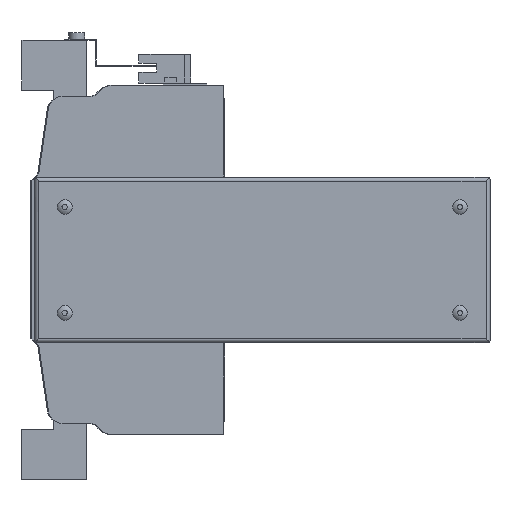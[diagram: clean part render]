
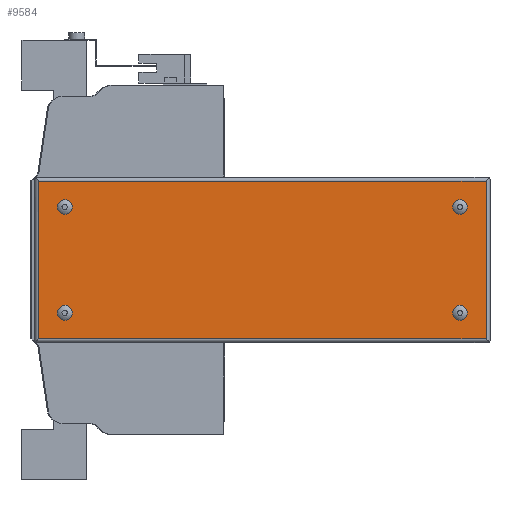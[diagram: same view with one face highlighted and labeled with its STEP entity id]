
A CAD part, left-side view. The second image highlights one B-rep face of the part: STEP entity #9584.
In plain terms, the highlighted planar face has unit normal (-1, 0, 0).
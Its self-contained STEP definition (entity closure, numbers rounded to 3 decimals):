
#277=PLANE('',#10317);
#975=LINE('',#14740,#2046);
#976=LINE('',#14743,#2047);
#977=LINE('',#14745,#2048);
#978=LINE('',#14747,#2049);
#2046=VECTOR('',#11960,1000.);
#2047=VECTOR('',#11961,1000.);
#2048=VECTOR('',#11962,1000.);
#2049=VECTOR('',#11963,1000.);
#3788=ORIENTED_EDGE('',*,*,#5927,.F.);
#3789=ORIENTED_EDGE('',*,*,#5928,.F.);
#3790=ORIENTED_EDGE('',*,*,#5929,.F.);
#3791=ORIENTED_EDGE('',*,*,#5930,.F.);
#3792=ORIENTED_EDGE('',*,*,#5931,.F.);
#3793=ORIENTED_EDGE('',*,*,#5932,.F.);
#3794=ORIENTED_EDGE('',*,*,#5933,.T.);
#3795=ORIENTED_EDGE('',*,*,#5934,.T.);
#5927=EDGE_CURVE('',#7103,#7103,#7733,.F.);
#5928=EDGE_CURVE('',#7104,#7104,#7734,.F.);
#5929=EDGE_CURVE('',#7105,#7105,#7735,.F.);
#5930=EDGE_CURVE('',#7106,#7106,#7736,.F.);
#5931=EDGE_CURVE('',#7107,#7108,#975,.T.);
#5932=EDGE_CURVE('',#7109,#7107,#976,.T.);
#5933=EDGE_CURVE('',#7109,#7110,#977,.T.);
#5934=EDGE_CURVE('',#7110,#7108,#978,.T.);
#7103=VERTEX_POINT('',#14733);
#7104=VERTEX_POINT('',#14735);
#7105=VERTEX_POINT('',#14737);
#7106=VERTEX_POINT('',#14739);
#7107=VERTEX_POINT('',#14741);
#7108=VERTEX_POINT('',#14742);
#7109=VERTEX_POINT('',#14744);
#7110=VERTEX_POINT('',#14746);
#7733=CIRCLE('',#10318,3.7);
#7734=CIRCLE('',#10319,3.7);
#7735=CIRCLE('',#10320,3.7);
#7736=CIRCLE('',#10321,3.7);
#8168=EDGE_LOOP('',(#3788));
#8169=EDGE_LOOP('',(#3789));
#8170=EDGE_LOOP('',(#3790));
#8171=EDGE_LOOP('',(#3791));
#8172=EDGE_LOOP('',(#3792,#3793,#3794,#3795));
#8845=FACE_BOUND('',#8168,.T.);
#8846=FACE_BOUND('',#8169,.T.);
#8847=FACE_BOUND('',#8170,.T.);
#8848=FACE_BOUND('',#8171,.T.);
#8849=FACE_BOUND('',#8172,.T.);
#9584=ADVANCED_FACE('',(#8845,#8846,#8847,#8848,#8849),#277,.F.);
#10317=AXIS2_PLACEMENT_3D('',#14731,#11950,#11951);
#10318=AXIS2_PLACEMENT_3D('',#14732,#11952,#11953);
#10319=AXIS2_PLACEMENT_3D('',#14734,#11954,#11955);
#10320=AXIS2_PLACEMENT_3D('',#14736,#11956,#11957);
#10321=AXIS2_PLACEMENT_3D('',#14738,#11958,#11959);
#11950=DIRECTION('',(1.,0.,0.));
#11951=DIRECTION('',(0.,0.,-1.));
#11952=DIRECTION('',(1.,0.,0.));
#11953=DIRECTION('',(0.,0.,-1.));
#11954=DIRECTION('',(1.,0.,0.));
#11955=DIRECTION('',(0.,0.,-1.));
#11956=DIRECTION('',(1.,0.,0.));
#11957=DIRECTION('',(0.,0.,-1.));
#11958=DIRECTION('',(1.,0.,0.));
#11959=DIRECTION('',(0.,0.,-1.));
#11960=DIRECTION('',(0.,-1.,0.));
#11961=DIRECTION('',(0.,0.,1.));
#11962=DIRECTION('',(0.,-1.,0.));
#11963=DIRECTION('',(0.,0.,1.));
#14731=CARTESIAN_POINT('',(-66.,-131.95,40.5));
#14732=CARTESIAN_POINT('',(-66.,-117.95,26.5));
#14733=CARTESIAN_POINT('',(-66.,-117.95,22.8));
#14734=CARTESIAN_POINT('',(-66.,-117.95,-26.5));
#14735=CARTESIAN_POINT('',(-66.,-117.95,-30.2));
#14736=CARTESIAN_POINT('',(-66.,80.05,26.5));
#14737=CARTESIAN_POINT('',(-66.,80.05,22.8));
#14738=CARTESIAN_POINT('',(-66.,80.05,-26.5));
#14739=CARTESIAN_POINT('',(-66.,80.05,-30.2));
#14740=CARTESIAN_POINT('',(-66.,228.,39.5));
#14741=CARTESIAN_POINT('',(-66.,93.05,39.5));
#14742=CARTESIAN_POINT('',(-66.,-130.95,39.5));
#14743=CARTESIAN_POINT('',(-66.,93.05,-83.));
#14744=CARTESIAN_POINT('',(-66.,93.05,-39.5));
#14745=CARTESIAN_POINT('',(-66.,228.,-39.5));
#14746=CARTESIAN_POINT('',(-66.,-130.95,-39.5));
#14747=CARTESIAN_POINT('',(-66.,-130.95,-83.));
